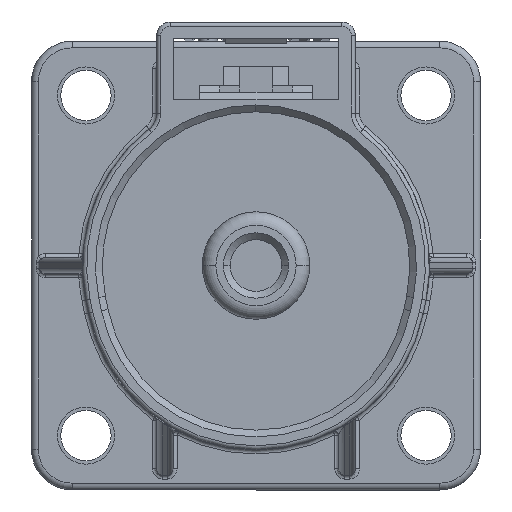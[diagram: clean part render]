
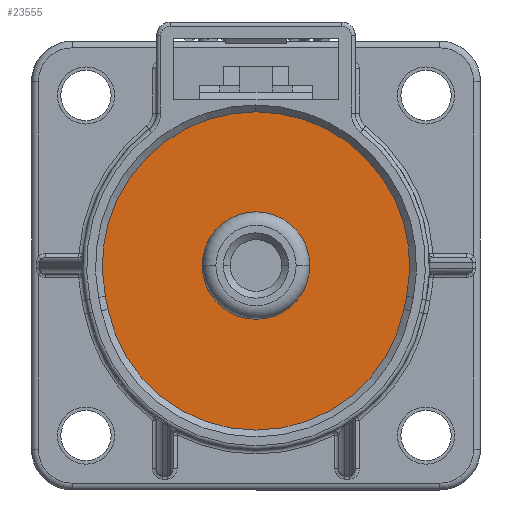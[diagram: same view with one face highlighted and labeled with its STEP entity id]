
A CAD part, front view. The second image highlights one B-rep face of the part: STEP entity #23555.
In plain terms, the highlighted planar face has unit normal (0, -1, 0).
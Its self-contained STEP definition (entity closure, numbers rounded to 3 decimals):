
#349 = CARTESIAN_POINT ( 'NONE',  ( 0., -3.031, 11.3 ) ) ;
#380 = DIRECTION ( 'NONE',  ( 0., 1., 0. ) ) ;
#613 = DIRECTION ( 'NONE',  ( 0., 0., -1. ) ) ;
#700 = ORIENTED_EDGE ( 'NONE', *, *, #11079, .T. ) ;
#769 = DIRECTION ( 'NONE',  ( 0., 0., 1. ) ) ;
#900 = DIRECTION ( 'NONE',  ( 0., 0., 1. ) ) ;
#1600 = CIRCLE ( 'NONE', #5434, 11.3 ) ;
#1612 = EDGE_LOOP ( 'NONE', ( #7548, #24647, #16590, #18913, #9492, #16819 ) ) ;
#1850 = CIRCLE ( 'NONE', #3491, 3.95 ) ;
#1857 = EDGE_CURVE ( 'NONE', #6562, #15109, #21595, .T. ) ;
#1958 = VERTEX_POINT ( 'NONE', #349 ) ;
#2177 = CIRCLE ( 'NONE', #3530, 11.3 ) ;
#2350 = CARTESIAN_POINT ( 'NONE',  ( 0., -3.031, 0. ) ) ;
#2610 = CARTESIAN_POINT ( 'NONE',  ( 10.876, -3.031, -3.22 ) ) ;
#2678 = PLANE ( 'NONE',  #6885 ) ;
#2735 = EDGE_LOOP ( 'NONE', ( #700, #12825 ) ) ;
#2932 = AXIS2_PLACEMENT_3D ( 'NONE', #19127, #7614, #21057 ) ;
#3012 = DIRECTION ( 'NONE',  ( 0., 1., 0. ) ) ;
#3310 = AXIS2_PLACEMENT_3D ( 'NONE', #10031, #23458, #11965 ) ;
#3413 = CARTESIAN_POINT ( 'NONE',  ( -11.072, -3.031, -2.26 ) ) ;
#3491 = AXIS2_PLACEMENT_3D ( 'NONE', #12108, #380, #14042 ) ;
#3530 = AXIS2_PLACEMENT_3D ( 'NONE', #16453, #4892, #18386 ) ;
#4319 = LINE ( 'NONE', #17879, #24268 ) ;
#4892 = DIRECTION ( 'NONE',  ( 0., -1., 0. ) ) ;
#5434 = AXIS2_PLACEMENT_3D ( 'NONE', #24124, #12624, #900 ) ;
#5664 = CARTESIAN_POINT ( 'NONE',  ( 0., -3.031, -12.1 ) ) ;
#6539 = EDGE_CURVE ( 'NONE', #1958, #6737, #1600, .T. ) ;
#6562 = VERTEX_POINT ( 'NONE', #14539 ) ;
#6737 = VERTEX_POINT ( 'NONE', #3413 ) ;
#6885 = AXIS2_PLACEMENT_3D ( 'NONE', #23979, #12490, #769 ) ;
#7059 = EDGE_CURVE ( 'NONE', #9422, #1958, #2177, .T. ) ;
#7176 = FACE_BOUND ( 'NONE', #2735, .T. ) ;
#7548 = ORIENTED_EDGE ( 'NONE', *, *, #10710, .T. ) ;
#7566 = VERTEX_POINT ( 'NONE', #2610 ) ;
#7614 = DIRECTION ( 'NONE',  ( 0., -1., 0. ) ) ;
#8896 = EDGE_CURVE ( 'NONE', #9398, #7566, #9069, .T. ) ;
#9069 = CIRCLE ( 'NONE', #2932, 11.1 ) ;
#9398 = VERTEX_POINT ( 'NONE', #5664 ) ;
#9422 = VERTEX_POINT ( 'NONE', #13379 ) ;
#9492 = ORIENTED_EDGE ( 'NONE', *, *, #23940, .T. ) ;
#10031 = CARTESIAN_POINT ( 'NONE',  ( 0., -3.031, -1. ) ) ;
#10486 = CARTESIAN_POINT ( 'NONE',  ( -3.95, -3.031, 0. ) ) ;
#10710 = EDGE_CURVE ( 'NONE', #7566, #9422, #4319, .T. ) ;
#11079 = EDGE_CURVE ( 'NONE', #15109, #6562, #1850, .T. ) ;
#11190 = DIRECTION ( 'NONE',  ( 0.2, 0., -0.98 ) ) ;
#11965 = DIRECTION ( 'NONE',  ( 0., 0., 1. ) ) ;
#12108 = CARTESIAN_POINT ( 'NONE',  ( 0., -3.031, 0. ) ) ;
#12217 = DIRECTION ( 'NONE',  ( 0.2, 0., 0.98 ) ) ;
#12490 = DIRECTION ( 'NONE',  ( 0., -1., 0. ) ) ;
#12624 = DIRECTION ( 'NONE',  ( 0., -1., 0. ) ) ;
#12805 = LINE ( 'NONE', #24449, #17861 ) ;
#12825 = ORIENTED_EDGE ( 'NONE', *, *, #1857, .T. ) ;
#13379 = CARTESIAN_POINT ( 'NONE',  ( 11.072, -3.031, -2.26 ) ) ;
#14042 = DIRECTION ( 'NONE',  ( 0., 0., -1. ) ) ;
#14321 = CARTESIAN_POINT ( 'NONE',  ( -10.876, -3.031, -3.22 ) ) ;
#14539 = CARTESIAN_POINT ( 'NONE',  ( 3.95, -3.031, 0. ) ) ;
#15109 = VERTEX_POINT ( 'NONE', #10486 ) ;
#16453 = CARTESIAN_POINT ( 'NONE',  ( 0., -3.031, 0. ) ) ;
#16590 = ORIENTED_EDGE ( 'NONE', *, *, #6539, .T. ) ;
#16819 = ORIENTED_EDGE ( 'NONE', *, *, #8896, .T. ) ;
#16828 = FACE_OUTER_BOUND ( 'NONE', #1612, .T. ) ;
#17362 = VERTEX_POINT ( 'NONE', #14321 ) ;
#17861 = VECTOR ( 'NONE', #11190, 1000. ) ;
#17879 = CARTESIAN_POINT ( 'NONE',  ( 11.072, -3.031, -2.26 ) ) ;
#18386 = DIRECTION ( 'NONE',  ( 0., 0., 1. ) ) ;
#18913 = ORIENTED_EDGE ( 'NONE', *, *, #19676, .T. ) ;
#19127 = CARTESIAN_POINT ( 'NONE',  ( 0., -3.031, -1. ) ) ;
#19676 = EDGE_CURVE ( 'NONE', #6737, #17362, #12805, .T. ) ;
#21057 = DIRECTION ( 'NONE',  ( 0., 0., 1. ) ) ;
#21595 = CIRCLE ( 'NONE', #24197, 3.95 ) ;
#23458 = DIRECTION ( 'NONE',  ( 0., -1., 0. ) ) ;
#23555 = ADVANCED_FACE ( 'NONE', ( #16828, #7176 ), #2678, .T. ) ;
#23940 = EDGE_CURVE ( 'NONE', #17362, #9398, #24935, .T. ) ;
#23979 = CARTESIAN_POINT ( 'NONE',  ( 0., -3.031, 0. ) ) ;
#24124 = CARTESIAN_POINT ( 'NONE',  ( 0., -3.031, 0. ) ) ;
#24197 = AXIS2_PLACEMENT_3D ( 'NONE', #2350, #3012, #613 ) ;
#24268 = VECTOR ( 'NONE', #12217, 1000. ) ;
#24449 = CARTESIAN_POINT ( 'NONE',  ( -11.072, -3.031, -2.26 ) ) ;
#24647 = ORIENTED_EDGE ( 'NONE', *, *, #7059, .T. ) ;
#24935 = CIRCLE ( 'NONE', #3310, 11.1 ) ;
